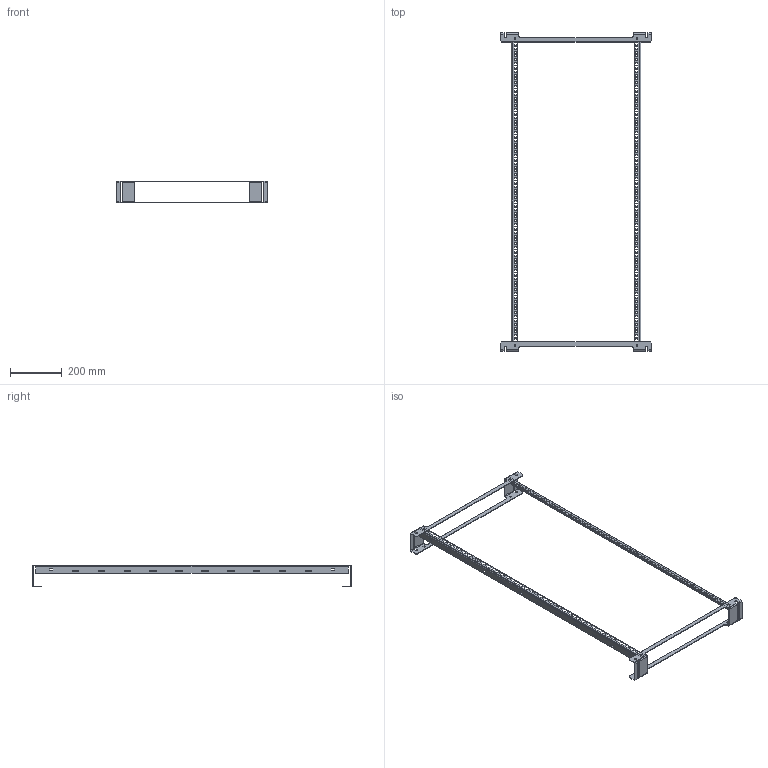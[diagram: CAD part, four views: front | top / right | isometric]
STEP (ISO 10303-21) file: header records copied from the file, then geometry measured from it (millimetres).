
FILE_DESCRIPTION (( 'STEP AP203' ), '1' );
FILE_NAME ('ptra48s.STEP', '2013-07-03T15:05:07', ( 'User' ), ( 'Pentair Inc' ), 'SwSTEP 2.0', 'SolidWorks 2010', '' );
FILE_SCHEMA (( 'CONFIG_CONTROL_DESIGN' ));
Length unit declared in the file: inch
Products named in the file (3): ptra48s; 89072126_87931339; 89060606_89060606
Assembly tree (4 placements, depth 2):
  ptra48s
    89060606_89060606  x2
    89072126_87931339  x2
Bounding box: 585 x 1229.51 x 85 mm (x, y, z)
Volume: 414532.6 mm3; surface area: 382731.8 mm2
Topology: 4 solids, 4 shells, 952 faces, 2756 edges, 1800 vertices
Faces by surface type: plane 856, cylinder 96
Entity records: 16121 total; most frequent: CARTESIAN_POINT 2761, ORIENTED_EDGE 2756, DIRECTION 2440, EDGE_CURVE 1378, LINE 1282, VECTOR 1282, VERTEX_POINT 900, EDGE_LOOP 668
